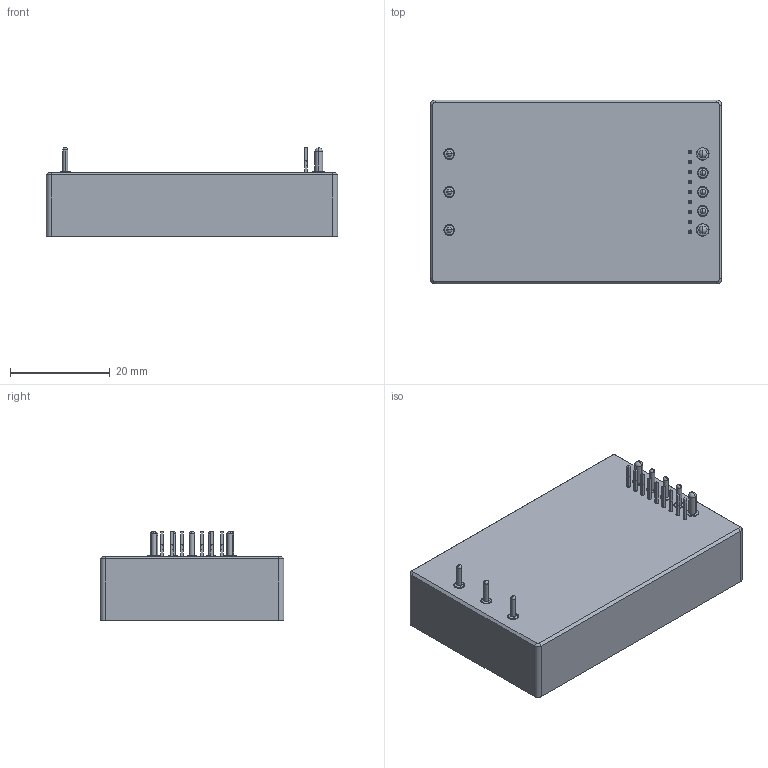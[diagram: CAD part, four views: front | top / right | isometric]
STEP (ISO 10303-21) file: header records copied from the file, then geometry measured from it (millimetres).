
FILE_DESCRIPTION (( 'STEP AP214' ), '1' );
FILE_NAME ('KMBM02.STEP', '2023-08-12T14:15:04', ( '' ), ( '' ), 'SwSTEP 2.0', 'SolidWorks 2021', '' );
FILE_SCHEMA (( 'AUTOMOTIVE_DESIGN' ));
Length unit declared in the file: millimetre
Products named in the file (1): KMBM02
Bounding box: 58.42 x 36.83 x 17.86 mm (x, y, z)
Surface area: 19095.7 mm2 (no closed solid volume)
Topology: 0 solids, 12 shells, 868 faces, 2418 edges, 1464 vertices
Faces by surface type: plane 574, cylinder 206, cone 68, sphere 18, bspline 2
Entity records: 28732 total; most frequent: CARTESIAN_POINT 8395, ORIENTED_EDGE 4500, DIRECTION 3596, EDGE_CURVE 2394, VERTEX_POINT 1460, AXIS2_PLACEMENT_3D 1409, B_SPLINE_CURVE_WITH_KNOTS 1006, EDGE_LOOP 996
